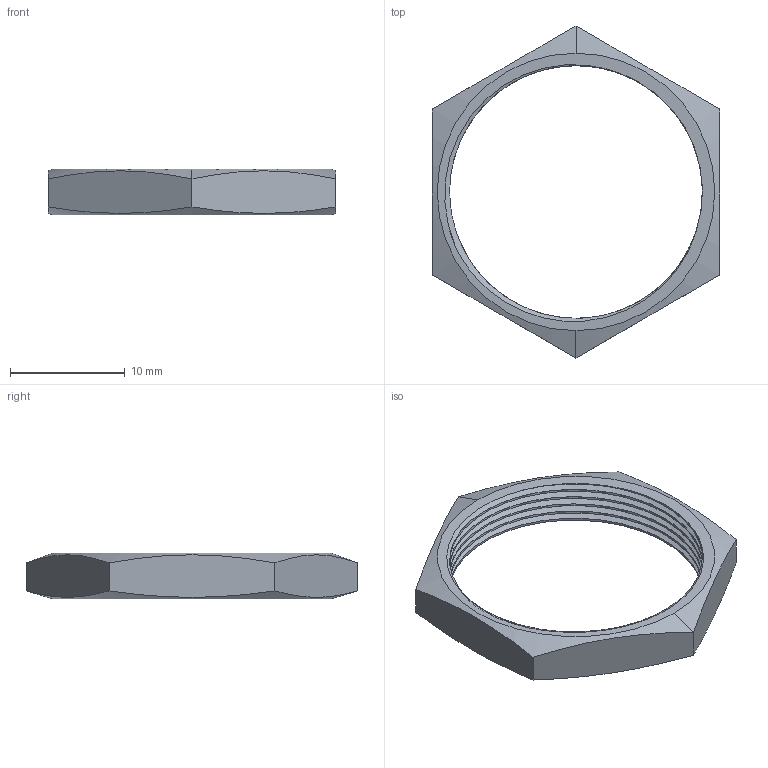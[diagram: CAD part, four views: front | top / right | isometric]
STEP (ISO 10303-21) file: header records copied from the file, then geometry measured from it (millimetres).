
FILE_DESCRIPTION((''),'2;1');
FILE_NAME('10-856','2012-02-01T',('jfgibert'),(''),'PRO/ENGINEER BY PARAMETRIC TECHNOLOGY CORPORATION, 2011250','PRO/ENGINEER BY PARAMETRIC TECHNOLOGY CORPORATION, 2011250','');
FILE_SCHEMA(('CONFIG_CONTROL_DESIGN'));
Length unit declared in the file: millimetre
Products named in the file (1): 10-856
Bounding box: 25 x 28.87 x 4 mm (x, y, z)
Volume: 550.7 mm3; surface area: 1087.5 mm2
Topology: 1 solids, 1 shells, 27 faces, 70 edges, 45 vertices
Faces by surface type: cylinder 10, plane 8, bspline 5, cone 4
Entity records: 3517 total; most frequent: CARTESIAN_POINT 2906, ORIENTED_EDGE 140, DIRECTION 78, EDGE_CURVE 70, VERTEX_POINT 45, B_SPLINE_CURVE_WITH_KNOTS 42, EDGE_LOOP 29, AXIS2_PLACEMENT_3D 28
